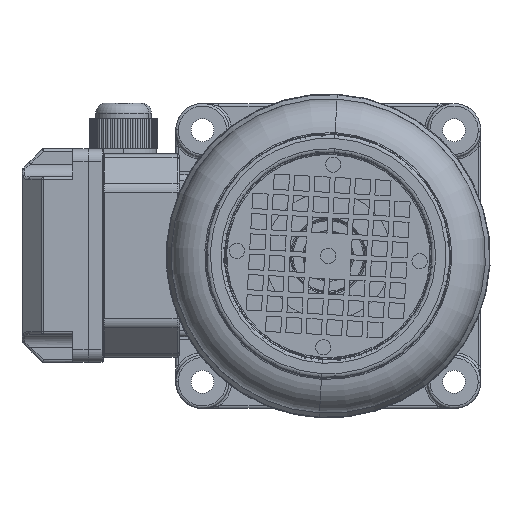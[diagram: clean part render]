
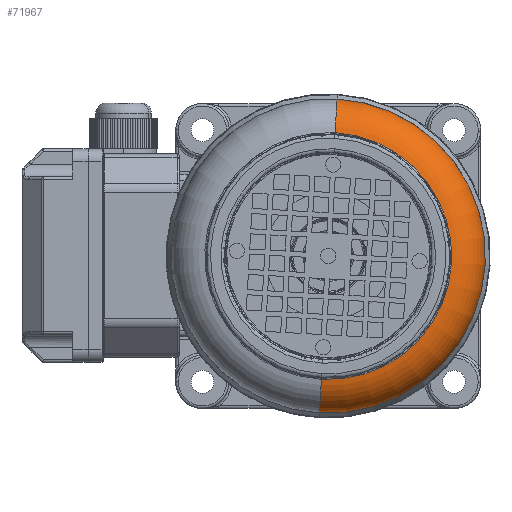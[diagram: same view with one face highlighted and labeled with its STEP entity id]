
A CAD part, front view. The second image highlights one B-rep face of the part: STEP entity #71967.
In plain terms, the highlighted toroidal (fillet/blend) face has major radius 46.75 mm and minor radius 15 mm.
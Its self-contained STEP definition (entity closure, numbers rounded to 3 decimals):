
#169 = EDGE_CURVE ( 'NONE', #42452, #15649, #90324, .T. ) ;
#426 = CARTESIAN_POINT ( 'NONE',  ( 11407.538, -26592.948, 48.591 ) ) ;
#4107 = ORIENTED_EDGE ( 'NONE', *, *, #28281, .F. ) ;
#10811 = DIRECTION ( 'NONE',  ( 0., 0., 1. ) ) ;
#12220 = TOROIDAL_SURFACE ( 'NONE', #31386, 46.75, 15. ) ;
#12225 = ORIENTED_EDGE ( 'NONE', *, *, #169, .F. ) ;
#12954 = ORIENTED_EDGE ( 'NONE', *, *, #74552, .T. ) ;
#13842 = VERTEX_POINT ( 'NONE', #82638 ) ;
#15315 = DIRECTION ( 'NONE',  ( 0., 0., -1. ) ) ;
#15493 = DIRECTION ( 'NONE',  ( -1., 0., 0. ) ) ;
#15649 = VERTEX_POINT ( 'NONE', #37189 ) ;
#16707 = EDGE_CURVE ( 'NONE', #42452, #27416, #67525, .T. ) ;
#17304 = CARTESIAN_POINT ( 'NONE',  ( 11392.652, -26592.948, 0. ) ) ;
#22201 = FACE_OUTER_BOUND ( 'NONE', #78385, .T. ) ;
#22223 = CARTESIAN_POINT ( 'NONE',  ( 11392.652, -26592.948, 46.75 ) ) ;
#27416 = VERTEX_POINT ( 'NONE', #86074 ) ;
#27776 = AXIS2_PLACEMENT_3D ( 'NONE', #52827, #67982, #10811 ) ;
#28218 = CARTESIAN_POINT ( 'NONE',  ( 11392.652, -26592.948, 0. ) ) ;
#28281 = EDGE_CURVE ( 'NONE', #15649, #13842, #87997, .T. ) ;
#30040 = DIRECTION ( 'NONE',  ( 0., 0., 1. ) ) ;
#31386 = AXIS2_PLACEMENT_3D ( 'NONE', #28218, #50826, #30040 ) ;
#32823 = AXIS2_PLACEMENT_3D ( 'NONE', #22223, #90217, #15315 ) ;
#37189 = CARTESIAN_POINT ( 'NONE',  ( 11392.652, -26592.948, 61.75 ) ) ;
#37954 = DIRECTION ( 'NONE',  ( 0., 1., 0. ) ) ;
#42452 = VERTEX_POINT ( 'NONE', #426 ) ;
#43654 = DIRECTION ( 'NONE',  ( 0., 0., 1. ) ) ;
#47206 = ORIENTED_EDGE ( 'NONE', *, *, #16707, .T. ) ;
#50826 = DIRECTION ( 'NONE',  ( -1., 0., 0. ) ) ;
#52246 = DIRECTION ( 'NONE',  ( 0., 0., 1. ) ) ;
#52827 = CARTESIAN_POINT ( 'NONE',  ( 11407.538, -26592.948, 0. ) ) ;
#53145 = CARTESIAN_POINT ( 'NONE',  ( 11392.652, -26592.948, -46.75 ) ) ;
#62308 = AXIS2_PLACEMENT_3D ( 'NONE', #53145, #37954, #52246 ) ;
#67525 = CIRCLE ( 'NONE', #27776, 48.591 ) ;
#67982 = DIRECTION ( 'NONE',  ( -1., 0., 0. ) ) ;
#71967 = ADVANCED_FACE ( 'NONE', ( #22201 ), #12220, .T. ) ;
#74552 = EDGE_CURVE ( 'NONE', #27416, #13842, #80067, .T. ) ;
#76010 = AXIS2_PLACEMENT_3D ( 'NONE', #17304, #15493, #43654 ) ;
#78385 = EDGE_LOOP ( 'NONE', ( #47206, #12954, #4107, #12225 ) ) ;
#80067 = CIRCLE ( 'NONE', #62308, 15. ) ;
#82638 = CARTESIAN_POINT ( 'NONE',  ( 11392.652, -26592.948, -61.75 ) ) ;
#86074 = CARTESIAN_POINT ( 'NONE',  ( 11407.538, -26592.948, -48.591 ) ) ;
#87997 = CIRCLE ( 'NONE', #76010, 61.75 ) ;
#90217 = DIRECTION ( 'NONE',  ( 0., -1., 0. ) ) ;
#90324 = CIRCLE ( 'NONE', #32823, 15. ) ;
